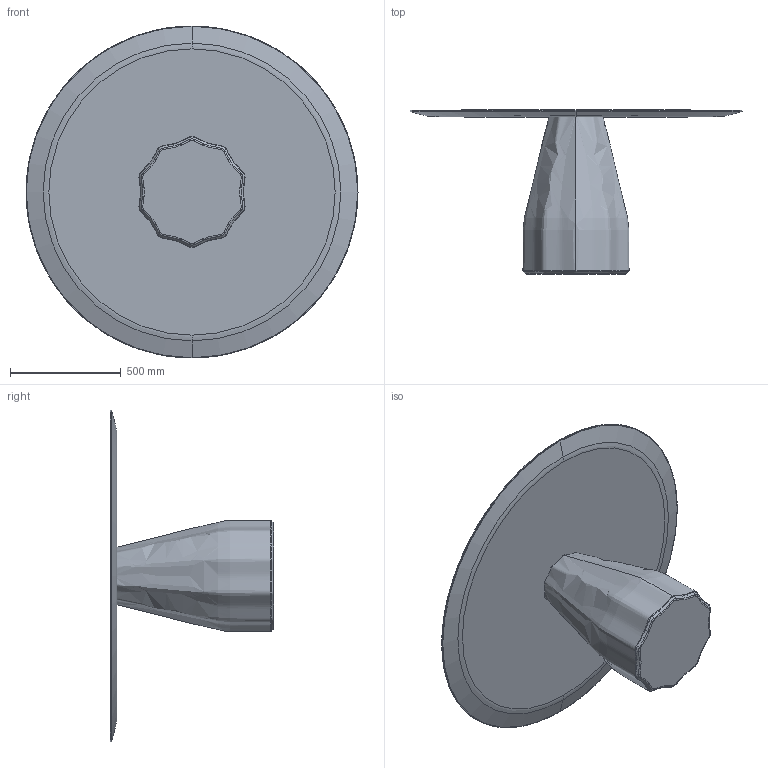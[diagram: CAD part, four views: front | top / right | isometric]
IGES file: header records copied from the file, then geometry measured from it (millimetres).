
Start section: SolidWorks IGES file using analytic representation for surfaces
Global section: file name: Z:\01-VICCARBE\VICCARBE TECNICO 2018\6.-Studio VCCB\Otros\Burin\Modelado\WEB\Nueva carpeta\BurinH74D150.IGS; native system: SolidWorks 2013; preprocessor: SolidWorks 2013; author: Usuario; date: 190219.125032; units: millimetre
Bounding box: 1500 x 740 x 1500 mm (x, y, z)
Volume: 141210287.7 mm3; surface area: 4725900.5 mm2
Topology: 2 solids, 2 shells, 136 faces, 348 edges, 216 vertices
Faces by surface type: bspline 122, revolution 10, plane 4
